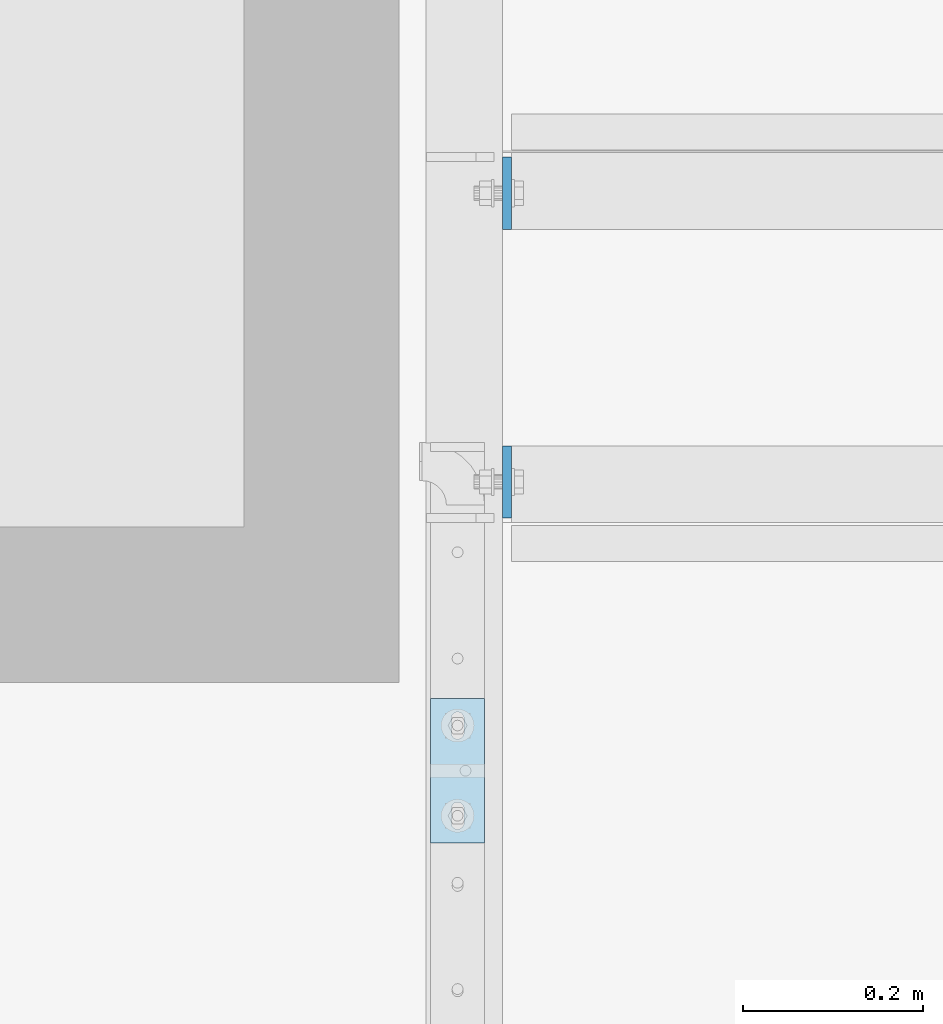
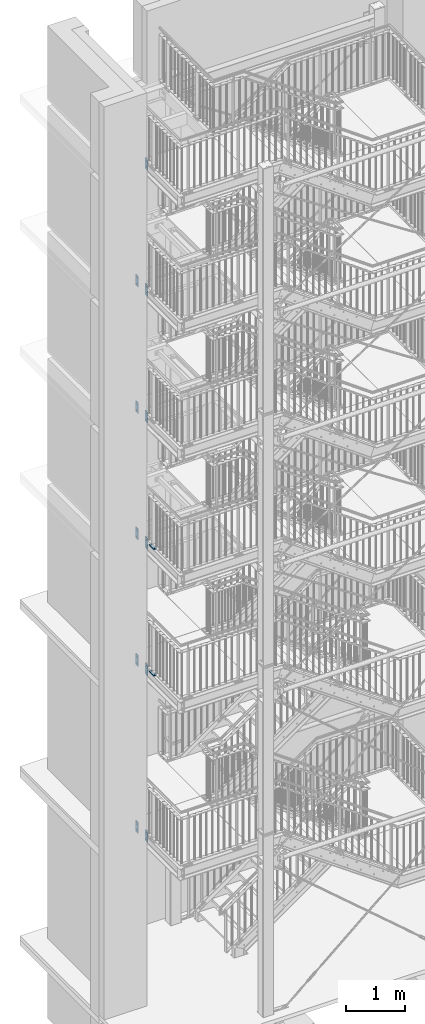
# One storey, part 161 of 831: 13 plates, 48 openings.
"""IFC2X3 building model written with IfcOpenShell, lengths in millimetres."""

from ifc_helpers import new_model, entity, si_unit, converted_unit, point, frame, frame_2d, origin, origin_with_axes, origin_2d_with_axis, place, context, project, spatial, polyline, circle_curve, line_curve, trimmed, segment, composite_curve, circle, outline, extrude, material, layer, layer_set, element, save


model = new_model("IFC2X3")

# Units and contexts
model_context = context("Model", 3, precision=1e-09, world=origin_with_axes())
ifc_project = project(units=[si_unit("LENGTHUNIT", "METRE", prefix="MILLI"), si_unit("AREAUNIT", "SQUARE_METRE"), si_unit("VOLUMEUNIT", "CUBIC_METRE"), converted_unit("PLANEANGLEUNIT", "DEGREE", entity("IfcPlaneAngleMeasure", 0.01745329), si_unit("PLANEANGLEUNIT", "RADIAN"), dimensions=[0, 0, 0, 0, 0, 0, 0])], contexts=[model_context])

# Site, building, storey
site_placement = place(None, origin_with_axes())
site = spatial("IfcSite", under=ifc_project, at=site_placement, Name="Site", CompositionType="ELEMENT")
building_placement = place(site_placement, origin_with_axes())
building = spatial("IfcBuilding", under=site, at=building_placement, Name="Struktur 1", CompositionType="ELEMENT")
storey_placement = place(building_placement, origin_with_axes())
storey = spatial("IfcBuildingStorey", under=building, at=storey_placement, Name="Default Storey", CompositionType="ELEMENT", Elevation=0.0)

# Plate, openings
ifc_material = material(Name="S235JR")
ifc_layer_1 = layer(ifc_material, 10.0)
ifc_layer_set_1 = layer_set([ifc_layer_1], Name="S235JR")
plate_1_placement = place(None, frame((3321.713402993, 5741.736971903, 3842.0), z_axis=(1.0, 0.0, 0.0), x_axis=(0.0, 0.0, -1.0)))
plate_1 = element("IfcPlate", 1, at=plate_1_placement, inside=storey, material=ifc_layer_set_1, Name="Endplate", ObjectType="Endplate", context=model_context, shape_type="SweptSolid", body=[
    extrude(outline(polyline([(0.0, 0.0), (230.0, 0.0), (230.0, 80.0), (0.0, 80.0), (0.0, 0.0)])), origin_with_axes(), (0.0, 0.0, 1.0), 10.0),
])
opening_1_placement = place(plate_1_placement, frame((209.0, 17.5, -0.5), z_axis=(0.0, 0.0, 1.0), x_axis=(1.0, 0.0, 0.0)))
element("IfcOpeningElement", 2, at=opening_1_placement, cuts=plate_1, ObjectType="Opening", context=model_context, shape_type="SweptSolid", body=[
    extrude(circle(Radius=6.001, at=origin_2d_with_axis()), origin(), (0.0, 0.0, 1.0), 11.0),
])
opening_2_placement = place(plate_1_placement, frame((21.0, 17.5, -0.5), z_axis=(0.0, 0.0, 1.0), x_axis=(1.0, 0.0, 0.0)))
element("IfcOpeningElement", 3, at=opening_2_placement, cuts=plate_1, ObjectType="Opening", context=model_context, shape_type="SweptSolid", body=[
    extrude(circle(Radius=6.001, at=origin_2d_with_axis()), origin(), (0.0, 0.0, 1.0), 11.0),
])
opening_3_placement = place(plate_1_placement, frame((64.001, 40.0, -0.5), z_axis=(0.0, 0.0, -1.0), x_axis=(-1.0, 0.0, 0.0)))
element("IfcOpeningElement", 4, at=opening_3_placement, cuts=plate_1, ObjectType="Opening", context=model_context, shape_type="SweptSolid", body=[
    extrude(circle(Radius=9.001, at=frame_2d((9.001, 0.0), x_axis=(1.0, 0.0))), origin(), (0.0, 0.0, -1.0), 11.0),
])
opening_4_placement = place(plate_1_placement, frame((184.001, 40.0, -0.5), z_axis=(0.0, 0.0, -1.0), x_axis=(-1.0, 0.0, 0.0)))
element("IfcOpeningElement", 5, at=opening_4_placement, cuts=plate_1, ObjectType="Opening", context=model_context, shape_type="SweptSolid", body=[
    extrude(circle(Radius=9.001, at=frame_2d((9.001, 0.0), x_axis=(1.0, 0.0))), origin(), (0.0, 0.0, -1.0), 11.0),
])

plate_2_placement = place(None, frame((3321.713402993, 5741.736971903, 7315.0), z_axis=(1.0, 0.0, 0.0), x_axis=(0.0, 0.0, -1.0)))
plate_2 = element("IfcPlate", 6, at=plate_2_placement, inside=storey, material=ifc_layer_set_1, Name="Endplate", ObjectType="Endplate", context=model_context, shape_type="SweptSolid", body=[
    extrude(outline(polyline([(0.0, 0.0), (230.0, 0.0), (230.0, 80.0), (0.0, 80.0), (0.0, 0.0)])), origin_with_axes(), (0.0, 0.0, 1.0), 10.0),
])
opening_5_placement = place(plate_2_placement, frame((209.0, 17.5, -0.5), z_axis=(0.0, 0.0, 1.0), x_axis=(1.0, 0.0, 0.0)))
element("IfcOpeningElement", 7, at=opening_5_placement, cuts=plate_2, ObjectType="Opening", context=model_context, shape_type="SweptSolid", body=[
    extrude(circle(Radius=6.001, at=origin_2d_with_axis()), origin(), (0.0, 0.0, 1.0), 11.0),
])
opening_6_placement = place(plate_2_placement, frame((21.0, 17.5, -0.5), z_axis=(0.0, 0.0, 1.0), x_axis=(1.0, 0.0, 0.0)))
element("IfcOpeningElement", 8, at=opening_6_placement, cuts=plate_2, ObjectType="Opening", context=model_context, shape_type="SweptSolid", body=[
    extrude(circle(Radius=6.001, at=origin_2d_with_axis()), origin(), (0.0, 0.0, 1.0), 11.0),
])
opening_7_placement = place(plate_2_placement, frame((64.001, 40.0, -0.5), z_axis=(0.0, 0.0, -1.0), x_axis=(-1.0, 0.0, 0.0)))
element("IfcOpeningElement", 9, at=opening_7_placement, cuts=plate_2, ObjectType="Opening", context=model_context, shape_type="SweptSolid", body=[
    extrude(circle(Radius=9.001, at=frame_2d((9.001, 0.0), x_axis=(1.0, 0.0))), origin(), (0.0, 0.0, -1.0), 11.0),
])
opening_8_placement = place(plate_2_placement, frame((184.001, 40.0, -0.5), z_axis=(0.0, 0.0, -1.0), x_axis=(-1.0, 0.0, 0.0)))
element("IfcOpeningElement", 10, at=opening_8_placement, cuts=plate_2, ObjectType="Opening", context=model_context, shape_type="SweptSolid", body=[
    extrude(circle(Radius=9.001, at=frame_2d((9.001, 0.0), x_axis=(1.0, 0.0))), origin(), (0.0, 0.0, -1.0), 11.0),
])

plate_3_placement = place(None, frame((3321.713402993, 5741.736971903, 9947.0), z_axis=(1.0, 0.0, 0.0), x_axis=(0.0, 0.0, -1.0)))
plate_3 = element("IfcPlate", 11, at=plate_3_placement, inside=storey, material=ifc_layer_set_1, Name="Endplate", ObjectType="Endplate", context=model_context, shape_type="SweptSolid", body=[
    extrude(outline(polyline([(0.0, 0.0), (230.0, 0.0), (230.0, 80.0), (0.0, 80.0), (0.0, 0.0)])), origin_with_axes(), (0.0, 0.0, 1.0), 10.0),
])
opening_9_placement = place(plate_3_placement, frame((209.0, 17.5, -0.5), z_axis=(0.0, 0.0, 1.0), x_axis=(1.0, 0.0, 0.0)))
element("IfcOpeningElement", 12, at=opening_9_placement, cuts=plate_3, ObjectType="Opening", context=model_context, shape_type="SweptSolid", body=[
    extrude(circle(Radius=6.001, at=origin_2d_with_axis()), origin(), (0.0, 0.0, 1.0), 11.0),
])
opening_10_placement = place(plate_3_placement, frame((21.0, 17.5, -0.5), z_axis=(0.0, 0.0, 1.0), x_axis=(1.0, 0.0, 0.0)))
element("IfcOpeningElement", 13, at=opening_10_placement, cuts=plate_3, ObjectType="Opening", context=model_context, shape_type="SweptSolid", body=[
    extrude(circle(Radius=6.001, at=origin_2d_with_axis()), origin(), (0.0, 0.0, 1.0), 11.0),
])
opening_11_placement = place(plate_3_placement, frame((64.001, 40.0, -0.5), z_axis=(0.0, 0.0, -1.0), x_axis=(-1.0, 0.0, 0.0)))
element("IfcOpeningElement", 14, at=opening_11_placement, cuts=plate_3, ObjectType="Opening", context=model_context, shape_type="SweptSolid", body=[
    extrude(circle(Radius=9.001, at=frame_2d((9.001, 0.0), x_axis=(1.0, 0.0))), origin(), (0.0, 0.0, -1.0), 11.0),
])
opening_12_placement = place(plate_3_placement, frame((184.001, 40.0, -0.5), z_axis=(0.0, 0.0, -1.0), x_axis=(-1.0, 0.0, 0.0)))
element("IfcOpeningElement", 15, at=opening_12_placement, cuts=plate_3, ObjectType="Opening", context=model_context, shape_type="SweptSolid", body=[
    extrude(circle(Radius=9.001, at=frame_2d((9.001, 0.0), x_axis=(1.0, 0.0))), origin(), (0.0, 0.0, -1.0), 11.0),
])

plate_4_placement = place(None, frame((3321.713402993, 5741.736971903, 12574.0), z_axis=(1.0, 0.0, 0.0), x_axis=(0.0, 0.0, -1.0)))
plate_4 = element("IfcPlate", 16, at=plate_4_placement, inside=storey, material=ifc_layer_set_1, Name="Endplate", ObjectType="Endplate", context=model_context, shape_type="SweptSolid", body=[
    extrude(outline(polyline([(0.0, 0.0), (230.0, 0.0), (230.0, 80.0), (0.0, 80.0), (0.0, 0.0)])), origin_with_axes(), (0.0, 0.0, 1.0), 10.0),
])
opening_13_placement = place(plate_4_placement, frame((209.0, 17.5, -0.5), z_axis=(0.0, 0.0, 1.0), x_axis=(1.0, 0.0, 0.0)))
element("IfcOpeningElement", 17, at=opening_13_placement, cuts=plate_4, ObjectType="Opening", context=model_context, shape_type="SweptSolid", body=[
    extrude(circle(Radius=6.001, at=origin_2d_with_axis()), origin(), (0.0, 0.0, 1.0), 11.0),
])
opening_14_placement = place(plate_4_placement, frame((21.0, 17.5, -0.5), z_axis=(0.0, 0.0, 1.0), x_axis=(1.0, 0.0, 0.0)))
element("IfcOpeningElement", 18, at=opening_14_placement, cuts=plate_4, ObjectType="Opening", context=model_context, shape_type="SweptSolid", body=[
    extrude(circle(Radius=6.001, at=origin_2d_with_axis()), origin(), (0.0, 0.0, 1.0), 11.0),
])
opening_15_placement = place(plate_4_placement, frame((64.001, 40.0, -0.5), z_axis=(0.0, 0.0, -1.0), x_axis=(-1.0, 0.0, 0.0)))
element("IfcOpeningElement", 19, at=opening_15_placement, cuts=plate_4, ObjectType="Opening", context=model_context, shape_type="SweptSolid", body=[
    extrude(circle(Radius=9.001, at=frame_2d((9.001, 0.0), x_axis=(1.0, 0.0))), origin(), (0.0, 0.0, -1.0), 11.0),
])
opening_16_placement = place(plate_4_placement, frame((184.001, 40.0, -0.5), z_axis=(0.0, 0.0, -1.0), x_axis=(-1.0, 0.0, 0.0)))
element("IfcOpeningElement", 20, at=opening_16_placement, cuts=plate_4, ObjectType="Opening", context=model_context, shape_type="SweptSolid", body=[
    extrude(circle(Radius=9.001, at=frame_2d((9.001, 0.0), x_axis=(1.0, 0.0))), origin(), (0.0, 0.0, -1.0), 11.0),
])

ifc_layer_2 = layer(ifc_material, 20.0)
ifc_layer_set_2 = layer_set([ifc_layer_2], Name="S235JR")
plate_5_placement = place(None, frame((3241.713402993, 5541.738971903, 7320.0), z_axis=(0.0, 0.0, 1.0), x_axis=(0.0, -1.0, 0.0)))
plate_5 = element("IfcPlate", 21, at=plate_5_placement, inside=storey, material=ifc_layer_set_2, Name="Plate#514", ObjectType="Plate#514", context=model_context, shape_type="SweptSolid", body=[
    extrude(outline(polyline([(0.0, 0.0), (160.0, 0.0), (160.0, 60.0), (0.0, 60.0), (0.0, 0.0)])), origin_with_axes(), (0.0, 0.0, 1.0), 20.0),
])
opening_17_placement = place(plate_5_placement, frame((38.0, 37.001, 20.5), z_axis=(0.0, 0.0, 1.0), x_axis=(-1.0, 0.0, 0.0)))
element("IfcOpeningElement", 22, at=opening_17_placement, cuts=plate_5, ObjectType="Opening", context=model_context, shape_type="SweptSolid", body=[
    extrude(outline(composite_curve([segment(trimmed(line_curve((0.0, 0.0), (1.0, 0.0), 16.0), [point((0.0, 0.0))], [point((16.0, 0.0))], True, "CARTESIAN"), True, "CONTINUOUS"), segment(trimmed(circle_curve(frame_2d((16.0, 7.001), x_axis=(1.0, 0.0)), 7.001), [point((16.0, 0.0))], [point((16.0, 14.002))], True, "CARTESIAN"), True, "CONTINUOUS"), segment(trimmed(line_curve((16.0, 14.002), (-1.0, 0.0), 16.0), [point((16.0, 14.002))], [point((0.0, 14.002))], True, "CARTESIAN"), True, "CONTINUOUS"), segment(trimmed(circle_curve(frame_2d((0.0, 7.001), x_axis=(1.0, 0.0)), 7.001), [point((0.0, 14.002))], [point((0.0, 0.0))], True, "CARTESIAN"), True, "CONTINUOUS")], self_intersect=False)), origin(), (0.0, 0.0, -1.0), 21.0),
])
opening_18_placement = place(plate_5_placement, frame((138.0, 37.001, 20.5), z_axis=(0.0, 0.0, 1.0), x_axis=(-1.0, 0.0, 0.0)))
element("IfcOpeningElement", 23, at=opening_18_placement, cuts=plate_5, ObjectType="Opening", context=model_context, shape_type="SweptSolid", body=[
    extrude(outline(composite_curve([segment(trimmed(line_curve((0.0, 0.0), (1.0, 0.0), 16.0), [point((0.0, 0.0))], [point((16.0, 0.0))], True, "CARTESIAN"), True, "CONTINUOUS"), segment(trimmed(circle_curve(frame_2d((16.0, 7.001), x_axis=(1.0, 0.0)), 7.001), [point((16.0, 0.0))], [point((16.0, 14.002))], True, "CARTESIAN"), True, "CONTINUOUS"), segment(trimmed(line_curve((16.0, 14.002), (-1.0, 0.0), 16.0), [point((16.0, 14.002))], [point((0.0, 14.002))], True, "CARTESIAN"), True, "CONTINUOUS"), segment(trimmed(circle_curve(frame_2d((0.0, 7.001), x_axis=(1.0, 0.0)), 7.001), [point((0.0, 14.002))], [point((0.0, 0.0))], True, "CARTESIAN"), True, "CONTINUOUS")], self_intersect=False)), origin(), (0.0, 0.0, -1.0), 21.0),
])

plate_6_placement = place(None, frame((3241.713402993, 5541.738971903, 9952.0), z_axis=(0.0, 0.0, 1.0), x_axis=(0.0, -1.0, 0.0)))
plate_6 = element("IfcPlate", 24, at=plate_6_placement, inside=storey, material=ifc_layer_set_2, Name="Plate#514", ObjectType="Plate#514", context=model_context, shape_type="SweptSolid", body=[
    extrude(outline(polyline([(0.0, 0.0), (160.0, 0.0), (160.0, 60.0), (0.0, 60.0), (0.0, 0.0)])), origin_with_axes(), (0.0, 0.0, 1.0), 20.0),
])
opening_19_placement = place(plate_6_placement, frame((38.0, 37.001, 20.5), z_axis=(0.0, 0.0, 1.0), x_axis=(-1.0, 0.0, 0.0)))
element("IfcOpeningElement", 25, at=opening_19_placement, cuts=plate_6, ObjectType="Opening", context=model_context, shape_type="SweptSolid", body=[
    extrude(outline(composite_curve([segment(trimmed(line_curve((0.0, 0.0), (1.0, 0.0), 16.0), [point((0.0, 0.0))], [point((16.0, 0.0))], True, "CARTESIAN"), True, "CONTINUOUS"), segment(trimmed(circle_curve(frame_2d((16.0, 7.001), x_axis=(1.0, 0.0)), 7.001), [point((16.0, 0.0))], [point((16.0, 14.002))], True, "CARTESIAN"), True, "CONTINUOUS"), segment(trimmed(line_curve((16.0, 14.002), (-1.0, 0.0), 16.0), [point((16.0, 14.002))], [point((0.0, 14.002))], True, "CARTESIAN"), True, "CONTINUOUS"), segment(trimmed(circle_curve(frame_2d((0.0, 7.001), x_axis=(1.0, 0.0)), 7.001), [point((0.0, 14.002))], [point((0.0, 0.0))], True, "CARTESIAN"), True, "CONTINUOUS")], self_intersect=False)), origin(), (0.0, 0.0, -1.0), 21.0),
])
opening_20_placement = place(plate_6_placement, frame((138.0, 37.001, 20.5), z_axis=(0.0, 0.0, 1.0), x_axis=(-1.0, 0.0, 0.0)))
element("IfcOpeningElement", 26, at=opening_20_placement, cuts=plate_6, ObjectType="Opening", context=model_context, shape_type="SweptSolid", body=[
    extrude(outline(composite_curve([segment(trimmed(line_curve((0.0, 0.0), (1.0, 0.0), 16.0), [point((0.0, 0.0))], [point((16.0, 0.0))], True, "CARTESIAN"), True, "CONTINUOUS"), segment(trimmed(circle_curve(frame_2d((16.0, 7.001), x_axis=(1.0, 0.0)), 7.001), [point((16.0, 0.0))], [point((16.0, 14.002))], True, "CARTESIAN"), True, "CONTINUOUS"), segment(trimmed(line_curve((16.0, 14.002), (-1.0, 0.0), 16.0), [point((16.0, 14.002))], [point((0.0, 14.002))], True, "CARTESIAN"), True, "CONTINUOUS"), segment(trimmed(circle_curve(frame_2d((0.0, 7.001), x_axis=(1.0, 0.0)), 7.001), [point((0.0, 14.002))], [point((0.0, 0.0))], True, "CARTESIAN"), True, "CONTINUOUS")], self_intersect=False)), origin(), (0.0, 0.0, -1.0), 21.0),
])

plate_7_placement = place(None, frame((3321.713402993, 5741.736971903, 15209.0), z_axis=(1.0, 0.0, 0.0), x_axis=(0.0, 0.0, -1.0)))
plate_7 = element("IfcPlate", 27, at=plate_7_placement, inside=storey, material=ifc_layer_set_1, Name="Endplate", ObjectType="Endplate", context=model_context, shape_type="SweptSolid", body=[
    extrude(outline(polyline([(0.0, 0.0), (230.0, 0.0), (230.0, 80.0), (0.0, 80.0), (0.0, 0.0)])), origin_with_axes(), (0.0, 0.0, 1.0), 10.0),
])
opening_21_placement = place(plate_7_placement, frame((209.0, 17.5, -0.5), z_axis=(0.0, 0.0, 1.0), x_axis=(1.0, 0.0, 0.0)))
element("IfcOpeningElement", 28, at=opening_21_placement, cuts=plate_7, ObjectType="Opening", context=model_context, shape_type="SweptSolid", body=[
    extrude(circle(Radius=6.001, at=origin_2d_with_axis()), origin(), (0.0, 0.0, 1.0), 11.0),
])
opening_22_placement = place(plate_7_placement, frame((21.0, 17.5, -0.5), z_axis=(0.0, 0.0, 1.0), x_axis=(1.0, 0.0, 0.0)))
element("IfcOpeningElement", 29, at=opening_22_placement, cuts=plate_7, ObjectType="Opening", context=model_context, shape_type="SweptSolid", body=[
    extrude(circle(Radius=6.001, at=origin_2d_with_axis()), origin(), (0.0, 0.0, 1.0), 11.0),
])
opening_23_placement = place(plate_7_placement, frame((64.001, 40.0, -0.5), z_axis=(0.0, 0.0, -1.0), x_axis=(-1.0, 0.0, 0.0)))
element("IfcOpeningElement", 30, at=opening_23_placement, cuts=plate_7, ObjectType="Opening", context=model_context, shape_type="SweptSolid", body=[
    extrude(circle(Radius=9.001, at=frame_2d((9.001, 0.0), x_axis=(1.0, 0.0))), origin(), (0.0, 0.0, -1.0), 11.0),
])
opening_24_placement = place(plate_7_placement, frame((184.001, 40.0, -0.5), z_axis=(0.0, 0.0, -1.0), x_axis=(-1.0, 0.0, 0.0)))
element("IfcOpeningElement", 31, at=opening_24_placement, cuts=plate_7, ObjectType="Opening", context=model_context, shape_type="SweptSolid", body=[
    extrude(circle(Radius=9.001, at=frame_2d((9.001, 0.0), x_axis=(1.0, 0.0))), origin(), (0.0, 0.0, -1.0), 11.0),
])

plate_8_placement = place(None, frame((3321.713402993, 5741.736971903, 17828.999999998), z_axis=(1.0, 0.0, 0.0), x_axis=(0.0, 0.0, -1.0)))
plate_8 = element("IfcPlate", 32, at=plate_8_placement, inside=storey, material=ifc_layer_set_1, Name="Endplate", ObjectType="Endplate", context=model_context, shape_type="SweptSolid", body=[
    extrude(outline(polyline([(0.0, 0.0), (230.0, 0.0), (230.0, 80.0), (0.0, 80.0), (0.0, 0.0)])), origin_with_axes(), (0.0, 0.0, 1.0), 10.0),
])
opening_25_placement = place(plate_8_placement, frame((209.0, 17.5, -0.5), z_axis=(0.0, 0.0, 1.0), x_axis=(1.0, 0.0, 0.0)))
element("IfcOpeningElement", 33, at=opening_25_placement, cuts=plate_8, ObjectType="Opening", context=model_context, shape_type="SweptSolid", body=[
    extrude(circle(Radius=6.001, at=origin_2d_with_axis()), origin(), (0.0, 0.0, 1.0), 11.0),
])
opening_26_placement = place(plate_8_placement, frame((21.0, 17.5, -0.5), z_axis=(0.0, 0.0, 1.0), x_axis=(1.0, 0.0, 0.0)))
element("IfcOpeningElement", 34, at=opening_26_placement, cuts=plate_8, ObjectType="Opening", context=model_context, shape_type="SweptSolid", body=[
    extrude(circle(Radius=6.001, at=origin_2d_with_axis()), origin(), (0.0, 0.0, 1.0), 11.0),
])
opening_27_placement = place(plate_8_placement, frame((64.001, 40.0, -0.5), z_axis=(0.0, 0.0, -1.0), x_axis=(-1.0, 0.0, 0.0)))
element("IfcOpeningElement", 35, at=opening_27_placement, cuts=plate_8, ObjectType="Opening", context=model_context, shape_type="SweptSolid", body=[
    extrude(circle(Radius=9.001, at=frame_2d((9.001, 0.0), x_axis=(1.0, 0.0))), origin(), (0.0, 0.0, -1.0), 11.0),
])
opening_28_placement = place(plate_8_placement, frame((184.001, 40.0, -0.5), z_axis=(0.0, 0.0, -1.0), x_axis=(-1.0, 0.0, 0.0)))
element("IfcOpeningElement", 36, at=opening_28_placement, cuts=plate_8, ObjectType="Opening", context=model_context, shape_type="SweptSolid", body=[
    extrude(circle(Radius=9.001, at=frame_2d((9.001, 0.0), x_axis=(1.0, 0.0))), origin(), (0.0, 0.0, -1.0), 11.0),
])

plate_9_placement = place(None, frame((3321.713402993, 6141.736971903, 3842.0), z_axis=(1.0, 0.0, 0.0), x_axis=(0.0, -1.0, 0.0)))
plate_9 = element("IfcPlate", 37, at=plate_9_placement, inside=storey, material=ifc_layer_set_1, Name="Endplate", ObjectType="Endplate", context=model_context, shape_type="SweptSolid", body=[
    extrude(outline(polyline([(0.0, 0.0), (80.0, 0.0), (80.0, 230.0), (0.0, 230.0), (0.0, 0.0)])), origin_with_axes(), (0.0, 0.0, 1.0), 10.0),
])
opening_29_placement = place(plate_9_placement, frame((17.5, 209.0, -0.5), z_axis=(0.0, 0.0, 1.0), x_axis=(0.0, -1.0, 0.0)))
element("IfcOpeningElement", 38, at=opening_29_placement, cuts=plate_9, ObjectType="Opening", context=model_context, shape_type="SweptSolid", body=[
    extrude(circle(Radius=6.001, at=origin_2d_with_axis()), origin(), (0.0, 0.0, 1.0), 11.0),
])
opening_30_placement = place(plate_9_placement, frame((17.5, 21.0, -0.5), z_axis=(0.0, 0.0, 1.0), x_axis=(0.0, -1.0, 0.0)))
element("IfcOpeningElement", 39, at=opening_30_placement, cuts=plate_9, ObjectType="Opening", context=model_context, shape_type="SweptSolid", body=[
    extrude(circle(Radius=6.001, at=origin_2d_with_axis()), origin(), (0.0, 0.0, 1.0), 11.0),
])
opening_31_placement = place(plate_9_placement, frame((40.0, 115.0, -0.5), z_axis=(0.0, 0.0, 1.0), x_axis=(0.0, -1.0, 0.0)))
element("IfcOpeningElement", 40, at=opening_31_placement, cuts=plate_9, ObjectType="Opening", context=model_context, shape_type="SweptSolid", body=[
    extrude(circle(Radius=9.001, at=frame_2d((60.0, 0.0), x_axis=(1.0, 0.0))), origin(), (0.0, 0.0, 1.0), 11.0),
])
opening_32_placement = place(plate_9_placement, frame((40.0, 115.0, -0.5), z_axis=(0.0, 0.0, 1.0), x_axis=(0.0, -1.0, 0.0)))
element("IfcOpeningElement", 41, at=opening_32_placement, cuts=plate_9, ObjectType="Opening", context=model_context, shape_type="SweptSolid", body=[
    extrude(circle(Radius=9.001, at=frame_2d((-60.0, 0.0), x_axis=(1.0, 0.0))), origin(), (0.0, 0.0, 1.0), 11.0),
])

plate_10_placement = place(None, frame((3321.713402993, 6141.736971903, 7315.0), z_axis=(1.0, 0.0, 0.0), x_axis=(0.0, -1.0, 0.0)))
plate_10 = element("IfcPlate", 42, at=plate_10_placement, inside=storey, material=ifc_layer_set_1, Name="Endplate", ObjectType="Endplate", context=model_context, shape_type="SweptSolid", body=[
    extrude(outline(polyline([(0.0, 0.0), (80.0, 0.0), (80.0, 230.0), (0.0, 230.0), (0.0, 0.0)])), origin_with_axes(), (0.0, 0.0, 1.0), 10.0),
])
opening_33_placement = place(plate_10_placement, frame((17.5, 209.0, -0.5), z_axis=(0.0, 0.0, 1.0), x_axis=(0.0, -1.0, 0.0)))
element("IfcOpeningElement", 43, at=opening_33_placement, cuts=plate_10, ObjectType="Opening", context=model_context, shape_type="SweptSolid", body=[
    extrude(circle(Radius=6.001, at=origin_2d_with_axis()), origin(), (0.0, 0.0, 1.0), 11.0),
])
opening_34_placement = place(plate_10_placement, frame((17.5, 21.0, -0.5), z_axis=(0.0, 0.0, 1.0), x_axis=(0.0, -1.0, 0.0)))
element("IfcOpeningElement", 44, at=opening_34_placement, cuts=plate_10, ObjectType="Opening", context=model_context, shape_type="SweptSolid", body=[
    extrude(circle(Radius=6.001, at=origin_2d_with_axis()), origin(), (0.0, 0.0, 1.0), 11.0),
])
opening_35_placement = place(plate_10_placement, frame((40.0, 115.0, -0.5), z_axis=(0.0, 0.0, 1.0), x_axis=(0.0, -1.0, 0.0)))
element("IfcOpeningElement", 45, at=opening_35_placement, cuts=plate_10, ObjectType="Opening", context=model_context, shape_type="SweptSolid", body=[
    extrude(circle(Radius=9.001, at=frame_2d((60.0, 0.0), x_axis=(1.0, 0.0))), origin(), (0.0, 0.0, 1.0), 11.0),
])
opening_36_placement = place(plate_10_placement, frame((40.0, 115.0, -0.5), z_axis=(0.0, 0.0, 1.0), x_axis=(0.0, -1.0, 0.0)))
element("IfcOpeningElement", 46, at=opening_36_placement, cuts=plate_10, ObjectType="Opening", context=model_context, shape_type="SweptSolid", body=[
    extrude(circle(Radius=9.001, at=frame_2d((-60.0, 0.0), x_axis=(1.0, 0.0))), origin(), (0.0, 0.0, 1.0), 11.0),
])

plate_11_placement = place(None, frame((3321.713402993, 6141.736971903, 9947.0), z_axis=(1.0, 0.0, 0.0), x_axis=(0.0, -1.0, 0.0)))
plate_11 = element("IfcPlate", 47, at=plate_11_placement, inside=storey, material=ifc_layer_set_1, Name="Endplate", ObjectType="Endplate", context=model_context, shape_type="SweptSolid", body=[
    extrude(outline(polyline([(0.0, 0.0), (80.0, 0.0), (80.0, 230.0), (0.0, 230.0), (0.0, 0.0)])), origin_with_axes(), (0.0, 0.0, 1.0), 10.0),
])
opening_37_placement = place(plate_11_placement, frame((17.5, 209.0, -0.5), z_axis=(0.0, 0.0, 1.0), x_axis=(0.0, -1.0, 0.0)))
element("IfcOpeningElement", 48, at=opening_37_placement, cuts=plate_11, ObjectType="Opening", context=model_context, shape_type="SweptSolid", body=[
    extrude(circle(Radius=6.001, at=origin_2d_with_axis()), origin(), (0.0, 0.0, 1.0), 11.0),
])
opening_38_placement = place(plate_11_placement, frame((17.5, 21.0, -0.5), z_axis=(0.0, 0.0, 1.0), x_axis=(0.0, -1.0, 0.0)))
element("IfcOpeningElement", 49, at=opening_38_placement, cuts=plate_11, ObjectType="Opening", context=model_context, shape_type="SweptSolid", body=[
    extrude(circle(Radius=6.001, at=origin_2d_with_axis()), origin(), (0.0, 0.0, 1.0), 11.0),
])
opening_39_placement = place(plate_11_placement, frame((40.0, 115.0, -0.5), z_axis=(0.0, 0.0, 1.0), x_axis=(0.0, -1.0, 0.0)))
element("IfcOpeningElement", 50, at=opening_39_placement, cuts=plate_11, ObjectType="Opening", context=model_context, shape_type="SweptSolid", body=[
    extrude(circle(Radius=9.001, at=frame_2d((60.0, 0.0), x_axis=(1.0, 0.0))), origin(), (0.0, 0.0, 1.0), 11.0),
])
opening_40_placement = place(plate_11_placement, frame((40.0, 115.0, -0.5), z_axis=(0.0, 0.0, 1.0), x_axis=(0.0, -1.0, 0.0)))
element("IfcOpeningElement", 51, at=opening_40_placement, cuts=plate_11, ObjectType="Opening", context=model_context, shape_type="SweptSolid", body=[
    extrude(circle(Radius=9.001, at=frame_2d((-60.0, 0.0), x_axis=(1.0, 0.0))), origin(), (0.0, 0.0, 1.0), 11.0),
])

plate_12_placement = place(None, frame((3321.713402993, 6141.736971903, 12574.0), z_axis=(1.0, 0.0, 0.0), x_axis=(0.0, -1.0, 0.0)))
plate_12 = element("IfcPlate", 52, at=plate_12_placement, inside=storey, material=ifc_layer_set_1, Name="Endplate", ObjectType="Endplate", context=model_context, shape_type="SweptSolid", body=[
    extrude(outline(polyline([(0.0, 0.0), (80.0, 0.0), (80.0, 230.0), (0.0, 230.0), (0.0, 0.0)])), origin_with_axes(), (0.0, 0.0, 1.0), 10.0),
])
opening_41_placement = place(plate_12_placement, frame((17.5, 209.0, -0.5), z_axis=(0.0, 0.0, 1.0), x_axis=(0.0, -1.0, 0.0)))
element("IfcOpeningElement", 53, at=opening_41_placement, cuts=plate_12, ObjectType="Opening", context=model_context, shape_type="SweptSolid", body=[
    extrude(circle(Radius=6.001, at=origin_2d_with_axis()), origin(), (0.0, 0.0, 1.0), 11.0),
])
opening_42_placement = place(plate_12_placement, frame((17.5, 21.0, -0.5), z_axis=(0.0, 0.0, 1.0), x_axis=(0.0, -1.0, 0.0)))
element("IfcOpeningElement", 54, at=opening_42_placement, cuts=plate_12, ObjectType="Opening", context=model_context, shape_type="SweptSolid", body=[
    extrude(circle(Radius=6.001, at=origin_2d_with_axis()), origin(), (0.0, 0.0, 1.0), 11.0),
])
opening_43_placement = place(plate_12_placement, frame((40.0, 115.0, -0.5), z_axis=(0.0, 0.0, 1.0), x_axis=(0.0, -1.0, 0.0)))
element("IfcOpeningElement", 55, at=opening_43_placement, cuts=plate_12, ObjectType="Opening", context=model_context, shape_type="SweptSolid", body=[
    extrude(circle(Radius=9.001, at=frame_2d((60.0, 0.0), x_axis=(1.0, 0.0))), origin(), (0.0, 0.0, 1.0), 11.0),
])
opening_44_placement = place(plate_12_placement, frame((40.0, 115.0, -0.5), z_axis=(0.0, 0.0, 1.0), x_axis=(0.0, -1.0, 0.0)))
element("IfcOpeningElement", 56, at=opening_44_placement, cuts=plate_12, ObjectType="Opening", context=model_context, shape_type="SweptSolid", body=[
    extrude(circle(Radius=9.001, at=frame_2d((-60.0, 0.0), x_axis=(1.0, 0.0))), origin(), (0.0, 0.0, 1.0), 11.0),
])

plate_13_placement = place(None, frame((3321.713402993, 6141.736971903, 15209.0), z_axis=(1.0, 0.0, 0.0), x_axis=(0.0, -1.0, 0.0)))
plate_13 = element("IfcPlate", 57, at=plate_13_placement, inside=storey, material=ifc_layer_set_1, Name="Endplate", ObjectType="Endplate", context=model_context, shape_type="SweptSolid", body=[
    extrude(outline(polyline([(0.0, 0.0), (80.0, 0.0), (80.0, 230.0), (0.0, 230.0), (0.0, 0.0)])), origin_with_axes(), (0.0, 0.0, 1.0), 10.0),
])
opening_45_placement = place(plate_13_placement, frame((17.5, 209.0, -0.5), z_axis=(0.0, 0.0, 1.0), x_axis=(0.0, -1.0, 0.0)))
element("IfcOpeningElement", 58, at=opening_45_placement, cuts=plate_13, ObjectType="Opening", context=model_context, shape_type="SweptSolid", body=[
    extrude(circle(Radius=6.001, at=origin_2d_with_axis()), origin(), (0.0, 0.0, 1.0), 11.0),
])
opening_46_placement = place(plate_13_placement, frame((17.5, 21.0, -0.5), z_axis=(0.0, 0.0, 1.0), x_axis=(0.0, -1.0, 0.0)))
element("IfcOpeningElement", 59, at=opening_46_placement, cuts=plate_13, ObjectType="Opening", context=model_context, shape_type="SweptSolid", body=[
    extrude(circle(Radius=6.001, at=origin_2d_with_axis()), origin(), (0.0, 0.0, 1.0), 11.0),
])
opening_47_placement = place(plate_13_placement, frame((40.0, 115.0, -0.5), z_axis=(0.0, 0.0, 1.0), x_axis=(0.0, -1.0, 0.0)))
element("IfcOpeningElement", 60, at=opening_47_placement, cuts=plate_13, ObjectType="Opening", context=model_context, shape_type="SweptSolid", body=[
    extrude(circle(Radius=9.001, at=frame_2d((60.0, 0.0), x_axis=(1.0, 0.0))), origin(), (0.0, 0.0, 1.0), 11.0),
])
opening_48_placement = place(plate_13_placement, frame((40.0, 115.0, -0.5), z_axis=(0.0, 0.0, 1.0), x_axis=(0.0, -1.0, 0.0)))
element("IfcOpeningElement", 61, at=opening_48_placement, cuts=plate_13, ObjectType="Opening", context=model_context, shape_type="SweptSolid", body=[
    extrude(circle(Radius=9.001, at=frame_2d((-60.0, 0.0), x_axis=(1.0, 0.0))), origin(), (0.0, 0.0, 1.0), 11.0),
])

save(model, "model.ifc")
